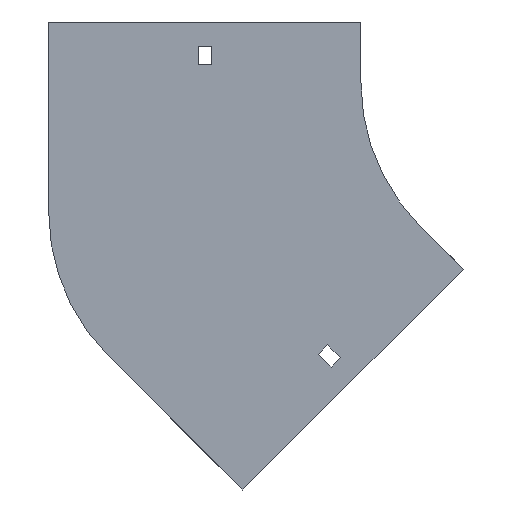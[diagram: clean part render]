
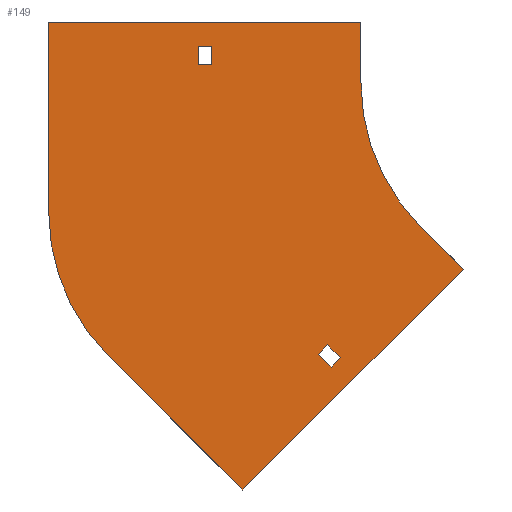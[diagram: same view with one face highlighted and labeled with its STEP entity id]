
A CAD part, front view. The second image highlights one B-rep face of the part: STEP entity #149.
In plain terms, the highlighted planar face has unit normal (0, -1, 0).
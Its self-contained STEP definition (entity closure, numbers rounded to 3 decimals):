
#10 = LINE ( 'NONE', #930, #939 ) ;
#26 = DIRECTION ( 'NONE',  ( -1., 0., 0. ) ) ;
#34 = CARTESIAN_POINT ( 'NONE',  ( -121.092, 0., -133.82 ) ) ;
#49 = ORIENTED_EDGE ( 'NONE', *, *, #1612, .F. ) ;
#64 = ORIENTED_EDGE ( 'NONE', *, *, #810, .F. ) ;
#75 = VERTEX_POINT ( 'NONE', #1258 ) ;
#81 = DIRECTION ( 'NONE',  ( 0., 0., 1. ) ) ;
#91 = DIRECTION ( 'NONE',  ( 0., 0., -1. ) ) ;
#103 = CARTESIAN_POINT ( 'NONE',  ( -154., 0., -63.789 ) ) ;
#119 = VECTOR ( 'NONE', #629, 1000. ) ;
#137 = EDGE_CURVE ( 'NONE', #1195, #352, #1302, .T. ) ;
#144 = CARTESIAN_POINT ( 'NONE',  ( -121.092, 0., -133.82 ) ) ;
#149 = ADVANCED_FACE ( 'NONE', ( #250, #1187, #1772 ), #1924, .T. ) ;
#157 = AXIS2_PLACEMENT_3D ( 'NONE', #103, #560, #81 ) ;
#176 = LINE ( 'NONE', #334, #119 ) ;
#179 = DIRECTION ( 'NONE',  ( 0., 0., -1. ) ) ;
#204 = ORIENTED_EDGE ( 'NONE', *, *, #1798, .F. ) ;
#243 = LINE ( 'NONE', #1615, #1320 ) ;
#250 = FACE_BOUND ( 'NONE', #1679, .T. ) ;
#256 = CARTESIAN_POINT ( 'NONE',  ( -70.711, 0., -70.711 ) ) ;
#257 = EDGE_CURVE ( 'NONE', #722, #1013, #606, .T. ) ;
#261 = CARTESIAN_POINT ( 'NONE',  ( -254., 0., 30. ) ) ;
#271 = CARTESIAN_POINT ( 'NONE',  ( -180.25, 0., 9. ) ) ;
#310 = CIRCLE ( 'NONE', #491, 100. ) ;
#312 = EDGE_CURVE ( 'NONE', #661, #324, #10, .T. ) ;
#324 = VERTEX_POINT ( 'NONE', #1681 ) ;
#334 = CARTESIAN_POINT ( 'NONE',  ( -114.728, 0., -140.184 ) ) ;
#339 = LINE ( 'NONE', #601, #489 ) ;
#352 = VERTEX_POINT ( 'NONE', #630 ) ;
#366 = DIRECTION ( 'NONE',  ( 0., 0., 1. ) ) ;
#376 = EDGE_CURVE ( 'NONE', #379, #1024, #1421, .T. ) ;
#379 = VERTEX_POINT ( 'NONE', #1737 ) ;
#380 = DIRECTION ( 'NONE',  ( -0.707, 0., -0.707 ) ) ;
#399 = CARTESIAN_POINT ( 'NONE',  ( -70.711, 0., -70.711 ) ) ;
#402 = CARTESIAN_POINT ( 'NONE',  ( -49.497, 0., -91.924 ) ) ;
#408 = ORIENTED_EDGE ( 'NONE', *, *, #376, .F. ) ;
#422 = CARTESIAN_POINT ( 'NONE',  ( -254., 0., 30. ) ) ;
#424 = DIRECTION ( 'NONE',  ( 0., -1., 0. ) ) ;
#445 = VECTOR ( 'NONE', #380, 1000. ) ;
#462 = EDGE_CURVE ( 'NONE', #1437, #1715, #1012, .T. ) ;
#467 = CARTESIAN_POINT ( 'NONE',  ( -110.132, 0., -135.588 ) ) ;
#471 = EDGE_CURVE ( 'NONE', #75, #1157, #243, .T. ) ;
#489 = VECTOR ( 'NONE', #1825, 1000. ) ;
#491 = AXIS2_PLACEMENT_3D ( 'NONE', #1913, #1770, #179 ) ;
#503 = VECTOR ( 'NONE', #1426, 1000. ) ;
#505 = ORIENTED_EDGE ( 'NONE', *, *, #956, .T. ) ;
#509 = LINE ( 'NONE', #647, #1323 ) ;
#516 = ORIENTED_EDGE ( 'NONE', *, *, #1291, .F. ) ;
#548 = LINE ( 'NONE', #271, #591 ) ;
#552 = CARTESIAN_POINT ( 'NONE',  ( -158.392, 0., -200.818 ) ) ;
#560 = DIRECTION ( 'NONE',  ( 0., 1., 0. ) ) ;
#591 = VECTOR ( 'NONE', #693, 1000. ) ;
#601 = CARTESIAN_POINT ( 'NONE',  ( -49.497, 0., -91.924 ) ) ;
#606 = LINE ( 'NONE', #144, #1535 ) ;
#629 = DIRECTION ( 'NONE',  ( 0.707, 0., 0.707 ) ) ;
#630 = CARTESIAN_POINT ( 'NONE',  ( -224.711, 0., -134.5 ) ) ;
#647 = CARTESIAN_POINT ( 'NONE',  ( -173.75, 0., 9. ) ) ;
#661 = VERTEX_POINT ( 'NONE', #1018 ) ;
#670 = CARTESIAN_POINT ( 'NONE',  ( -114.728, 0., -140.184 ) ) ;
#693 = DIRECTION ( 'NONE',  ( 0., 0., 1. ) ) ;
#704 = CARTESIAN_POINT ( 'NONE',  ( -121.092, 0., -133.82 ) ) ;
#708 = AXIS2_PLACEMENT_3D ( 'NONE', #1321, #424, #1903 ) ;
#722 = VERTEX_POINT ( 'NONE', #704 ) ;
#751 = ORIENTED_EDGE ( 'NONE', *, *, #1317, .F. ) ;
#770 = VECTOR ( 'NONE', #91, 1000. ) ;
#810 = EDGE_CURVE ( 'NONE', #1715, #1195, #339, .T. ) ;
#871 = DIRECTION ( 'NONE',  ( 1., 0., 0. ) ) ;
#912 = VECTOR ( 'NONE', #871, 1000. ) ;
#928 = EDGE_CURVE ( 'NONE', #1024, #1437, #310, .T. ) ;
#930 = CARTESIAN_POINT ( 'NONE',  ( -180.25, 0., 9. ) ) ;
#939 = VECTOR ( 'NONE', #26, 1000. ) ;
#948 = DIRECTION ( 'NONE',  ( 0., 0., -1. ) ) ;
#951 = ORIENTED_EDGE ( 'NONE', *, *, #257, .F. ) ;
#956 = EDGE_CURVE ( 'NONE', #1157, #661, #509, .T. ) ;
#967 = ORIENTED_EDGE ( 'NONE', *, *, #312, .T. ) ;
#974 = CARTESIAN_POINT ( 'NONE',  ( -116.496, 0., -129.224 ) ) ;
#1012 = LINE ( 'NONE', #399, #1250 ) ;
#1013 = VERTEX_POINT ( 'NONE', #670 ) ;
#1016 = VECTOR ( 'NONE', #366, 1000. ) ;
#1018 = CARTESIAN_POINT ( 'NONE',  ( -173.75, 0., 9. ) ) ;
#1024 = VERTEX_POINT ( 'NONE', #1568 ) ;
#1060 = DIRECTION ( 'NONE',  ( 0.707, 0., -0.707 ) ) ;
#1092 = VECTOR ( 'NONE', #1603, 1000. ) ;
#1126 = ORIENTED_EDGE ( 'NONE', *, *, #1945, .F. ) ;
#1146 = ORIENTED_EDGE ( 'NONE', *, *, #137, .F. ) ;
#1148 = CARTESIAN_POINT ( 'NONE',  ( -100., 0., 30. ) ) ;
#1157 = VERTEX_POINT ( 'NONE', #1834 ) ;
#1167 = ORIENTED_EDGE ( 'NONE', *, *, #1774, .T. ) ;
#1187 = FACE_OUTER_BOUND ( 'NONE', #1227, .T. ) ;
#1195 = VERTEX_POINT ( 'NONE', #1842 ) ;
#1227 = EDGE_LOOP ( 'NONE', ( #204, #1861, #751, #1146, #64, #1335, #1553, #408 ) ) ;
#1250 = VECTOR ( 'NONE', #1606, 1000. ) ;
#1258 = CARTESIAN_POINT ( 'NONE',  ( -180.25, 0., 18. ) ) ;
#1268 = LINE ( 'NONE', #974, #503 ) ;
#1288 = LINE ( 'NONE', #1718, #1016 ) ;
#1291 = EDGE_CURVE ( 'NONE', #1917, #1734, #1268, .T. ) ;
#1302 = LINE ( 'NONE', #552, #1092 ) ;
#1317 = EDGE_CURVE ( 'NONE', #352, #1617, #1828, .T. ) ;
#1320 = VECTOR ( 'NONE', #1466, 1000. ) ;
#1321 = CARTESIAN_POINT ( 'NONE',  ( 0., 0., 0. ) ) ;
#1323 = VECTOR ( 'NONE', #948, 1000. ) ;
#1335 = ORIENTED_EDGE ( 'NONE', *, *, #462, .F. ) ;
#1340 = VERTEX_POINT ( 'NONE', #422 ) ;
#1392 = LINE ( 'NONE', #34, #445 ) ;
#1410 = CARTESIAN_POINT ( 'NONE',  ( -254., 0., -63.789 ) ) ;
#1421 = LINE ( 'NONE', #1148, #770 ) ;
#1426 = DIRECTION ( 'NONE',  ( -0.707, 0., 0.707 ) ) ;
#1437 = VERTEX_POINT ( 'NONE', #256 ) ;
#1466 = DIRECTION ( 'NONE',  ( 1., 0., 0. ) ) ;
#1535 = VECTOR ( 'NONE', #1060, 1000. ) ;
#1553 = ORIENTED_EDGE ( 'NONE', *, *, #928, .F. ) ;
#1568 = CARTESIAN_POINT ( 'NONE',  ( -100., 0., 0. ) ) ;
#1603 = DIRECTION ( 'NONE',  ( -0.707, 0., 0.707 ) ) ;
#1606 = DIRECTION ( 'NONE',  ( 0.707, 0., -0.707 ) ) ;
#1612 = EDGE_CURVE ( 'NONE', #1734, #722, #1392, .T. ) ;
#1615 = CARTESIAN_POINT ( 'NONE',  ( -180.25, 0., 18. ) ) ;
#1617 = VERTEX_POINT ( 'NONE', #1410 ) ;
#1628 = LINE ( 'NONE', #261, #912 ) ;
#1679 = EDGE_LOOP ( 'NONE', ( #1167, #1886, #505, #967 ) ) ;
#1681 = CARTESIAN_POINT ( 'NONE',  ( -180.25, 0., 9. ) ) ;
#1690 = EDGE_CURVE ( 'NONE', #1617, #1340, #1288, .T. ) ;
#1715 = VERTEX_POINT ( 'NONE', #402 ) ;
#1718 = CARTESIAN_POINT ( 'NONE',  ( -254., 0., -63.789 ) ) ;
#1734 = VERTEX_POINT ( 'NONE', #1768 ) ;
#1735 = EDGE_LOOP ( 'NONE', ( #1126, #951, #49, #516 ) ) ;
#1737 = CARTESIAN_POINT ( 'NONE',  ( -100., 0., 30. ) ) ;
#1768 = CARTESIAN_POINT ( 'NONE',  ( -116.496, 0., -129.224 ) ) ;
#1770 = DIRECTION ( 'NONE',  ( 0., -1., 0. ) ) ;
#1772 = FACE_BOUND ( 'NONE', #1735, .T. ) ;
#1774 = EDGE_CURVE ( 'NONE', #324, #75, #548, .T. ) ;
#1798 = EDGE_CURVE ( 'NONE', #1340, #379, #1628, .T. ) ;
#1825 = DIRECTION ( 'NONE',  ( -0.707, 0., -0.707 ) ) ;
#1828 = CIRCLE ( 'NONE', #157, 100. ) ;
#1834 = CARTESIAN_POINT ( 'NONE',  ( -173.75, 0., 18. ) ) ;
#1842 = CARTESIAN_POINT ( 'NONE',  ( -158.392, 0., -200.818 ) ) ;
#1861 = ORIENTED_EDGE ( 'NONE', *, *, #1690, .F. ) ;
#1886 = ORIENTED_EDGE ( 'NONE', *, *, #471, .T. ) ;
#1903 = DIRECTION ( 'NONE',  ( 0., 0., -1. ) ) ;
#1913 = CARTESIAN_POINT ( 'NONE',  ( 0., 0., 0. ) ) ;
#1917 = VERTEX_POINT ( 'NONE', #467 ) ;
#1924 = PLANE ( 'NONE',  #708 ) ;
#1945 = EDGE_CURVE ( 'NONE', #1013, #1917, #176, .T. ) ;
